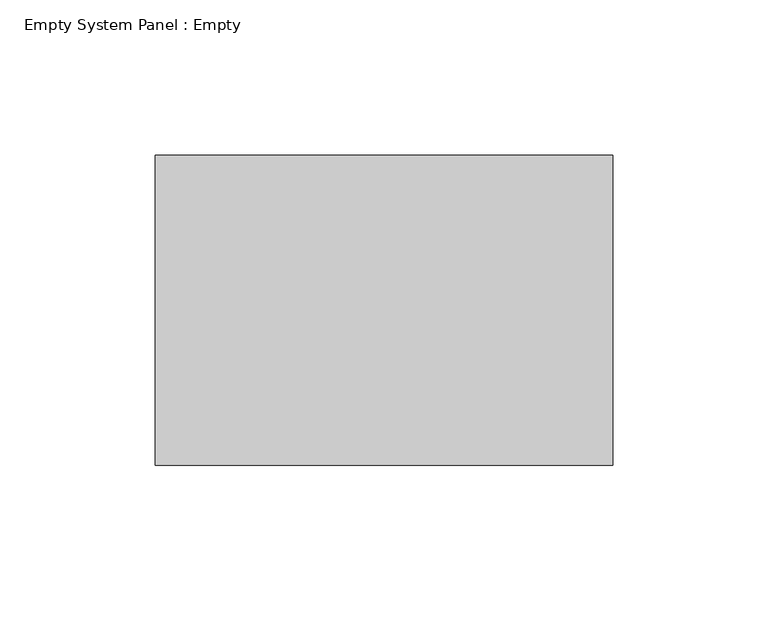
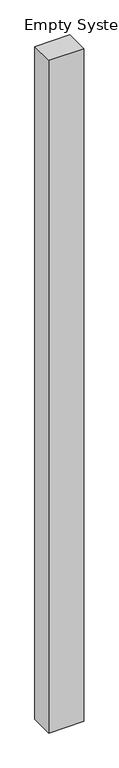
"""IFC4 building model written with IfcOpenShell, lengths in millimetres: plate geometry, Empty System Panel : Empty."""

from ifc_helpers import new_model, si_unit, origin, origin_with_axes, place, context, project, spatial, polyline, outline, extrude, source, transform, mapped, element, save


def empty_system_panel_empty_ec074acd(model_context):
    return source(origin(), model_context, "Body", "SweptSolid", [
        extrude(outline(polyline([(73.8370491, -50.0), (-73.8370491, -50.0), (-73.8370491, 50.0), (73.8370491, 50.0), (73.8370491, -50.0)])), origin_with_axes(), (0.0, 0.0, 1.0), 3000.0),
    ])


if __name__ == "__main__":
    model = new_model("IFC4")
    model_context = context("Model", 3, world=origin())
    ifc_project = project(units=[si_unit("LENGTHUNIT", "METRE", prefix="MILLI")], contexts=[model_context])
    site = spatial("IfcSite", under=ifc_project)
    building = spatial("IfcBuilding", under=site)
    placement = place(None, origin())
    empty_system_panel_empty_shape = empty_system_panel_empty_ec074acd(model_context)
    element("IfcPlate", 1, ObjectType="Empty System Panel : Empty", at=placement, inside=building, context=model_context, shape_type="MappedRepresentation", body=[
        mapped(empty_system_panel_empty_shape, transform((0.0, 0.0, 0.0), x_axis=(1.0, 0.0, 0.0), y_axis=(0.0, 1.0, 0.0), z_axis=(0.0, 0.0, 1.0))),
    ])
    save(model, "model.ifc")
